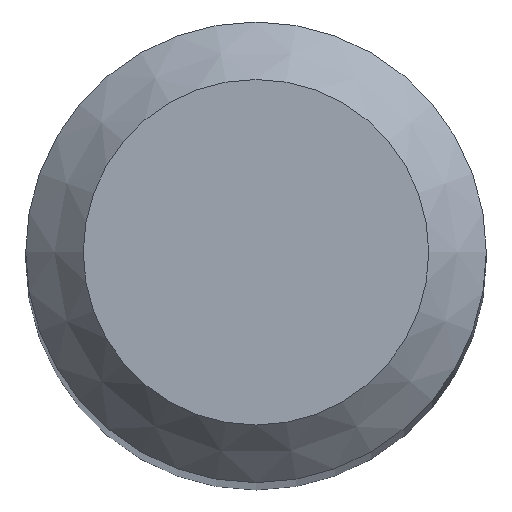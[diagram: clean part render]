
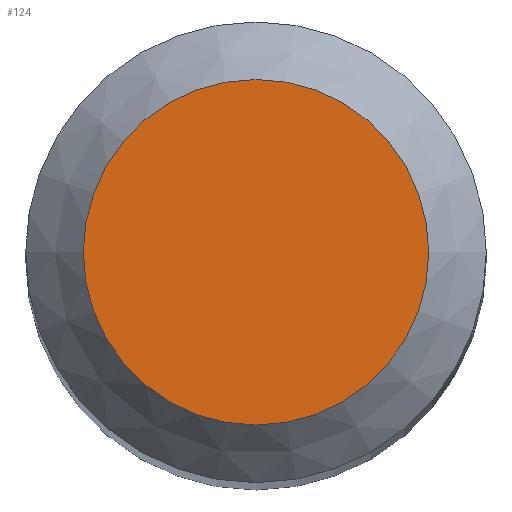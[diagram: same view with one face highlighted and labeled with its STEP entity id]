
A CAD part, top view. The second image highlights one B-rep face of the part: STEP entity #124.
In plain terms, the highlighted planar face has unit normal (0, 0, 1).
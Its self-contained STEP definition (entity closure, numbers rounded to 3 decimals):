
#108=CARTESIAN_POINT('',(1.5,0.0,60.0));
#109=DIRECTION('',(0.0,0.0,1.0));
#110=DIRECTION('',(1.0,0.0,0.0));
#111=AXIS2_PLACEMENT_3D('',#108,#109,#110);
#112=PLANE('',#111);
#113=CARTESIAN_POINT('',(-1.5,0.0,60.));
#114=VERTEX_POINT('',#113);
#115=CARTESIAN_POINT('',(0.0,0.0,60.));
#116=DIRECTION('',(0.0,0.0,-1.0));
#117=DIRECTION('',(-1.0,0.0,0.0));
#118=AXIS2_PLACEMENT_3D('',#115,#116,#117);
#119=CIRCLE('',#118,1.5);
#120=EDGE_CURVE('',#114,#114,#119,.T.);
#121=ORIENTED_EDGE('',*,*,#120,.F.);
#122=EDGE_LOOP('',(#121));
#123=FACE_OUTER_BOUND('',#122,.T.);
#124=ADVANCED_FACE('',(#123),#112,.T.);
